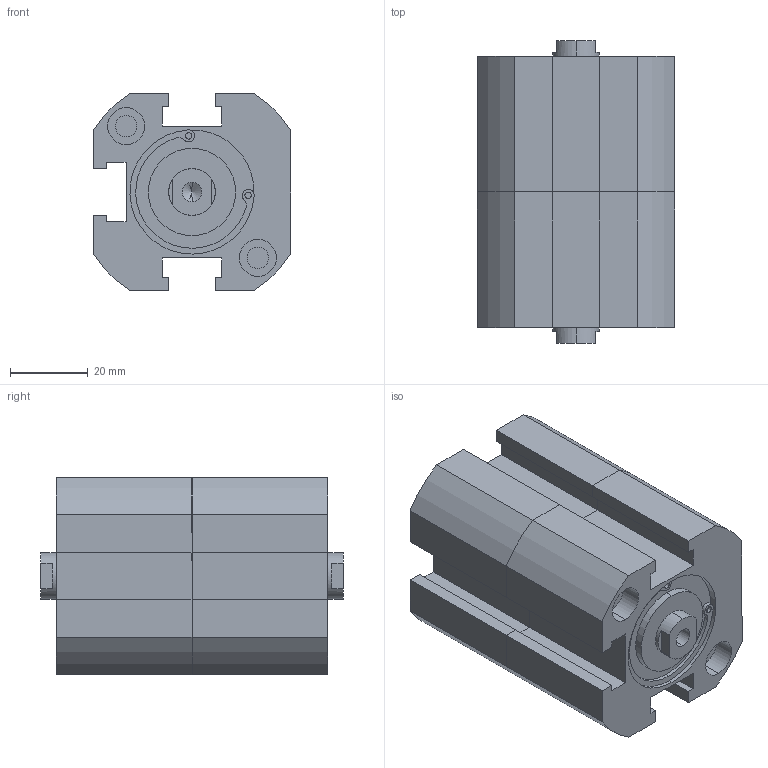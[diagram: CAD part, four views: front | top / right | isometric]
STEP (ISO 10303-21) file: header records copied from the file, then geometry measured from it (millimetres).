
FILE_DESCRIPTION (( 'STEP AP203' ), '1' );
FILE_NAME ('XCD7-32-10-10.STEP', '2016-08-05T01:39:19', ( '' ), ( '' ), 'SwSTEP 2.0', 'SolidWorks 2014', '' );
FILE_SCHEMA (( 'CONFIG_CONTROL_DESIGN' ));
Length unit declared in the file: millimetre
Products named in the file (2): XC#2-32-10; XCD7-32-10-10
Assembly tree (2 placements, depth 2):
  XCD7-32-10-10
    XC#2-32-10  x2
Bounding box: 51 x 78 x 51 mm (x, y, z)
Volume: 136410.2 mm3; surface area: 31542.7 mm2
Topology: 2 solids, 2 shells, 196 faces, 494 edges, 318 vertices
Faces by surface type: plane 92, cylinder 84, cone 20
Entity records: 3157 total; most frequent: DIRECTION 543, CARTESIAN_POINT 503, ORIENTED_EDGE 482, EDGE_CURVE 241, AXIS2_PLACEMENT_3D 199, VERTEX_POINT 159, LINE 145, VECTOR 145
